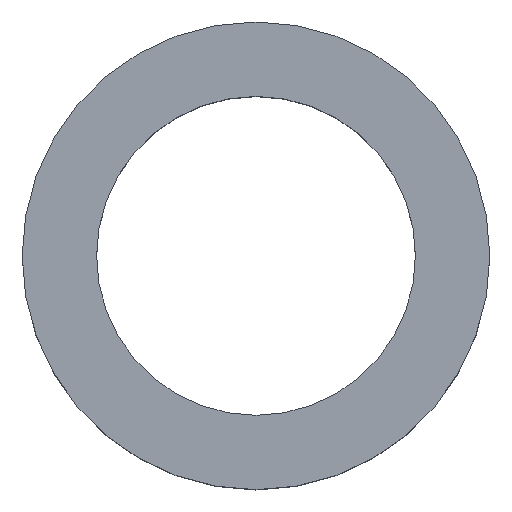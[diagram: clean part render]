
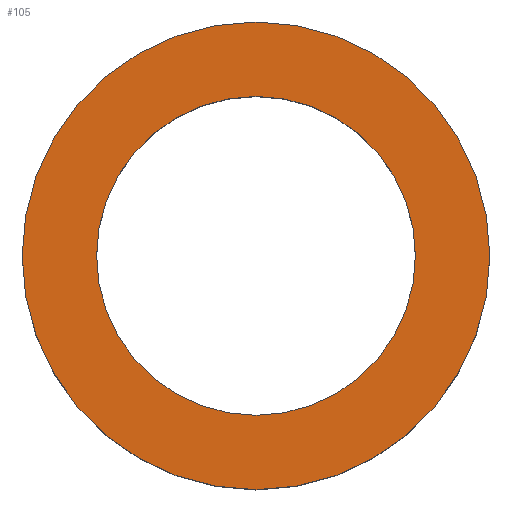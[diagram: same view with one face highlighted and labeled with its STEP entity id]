
A CAD part, top view. The second image highlights one B-rep face of the part: STEP entity #105.
In plain terms, the highlighted planar face has unit normal (0, 0, 1).
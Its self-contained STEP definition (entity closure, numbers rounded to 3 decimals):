
#21 = EDGE_CURVE('',#22,#22,#24,.T.);
#22 = VERTEX_POINT('',#23);
#23 = CARTESIAN_POINT('',(1.1,-14.,-2.251));
#24 = SURFACE_CURVE('',#25,(#30,#42),.PCURVE_S1.);
#25 = CIRCLE('',#26,1.1);
#26 = AXIS2_PLACEMENT_3D('',#27,#28,#29);
#27 = CARTESIAN_POINT('',(0.,-14.,-2.251));
#28 = DIRECTION('',(0.,0.,1.));
#29 = DIRECTION('',(1.,0.,-0.));
#30 = PCURVE('',#31,#36);
#31 = CYLINDRICAL_SURFACE('',#32,1.1);
#32 = AXIS2_PLACEMENT_3D('',#33,#34,#35);
#33 = CARTESIAN_POINT('',(0.,-14.,-3.07));
#34 = DIRECTION('',(0.,0.,1.));
#35 = DIRECTION('',(1.,0.,-0.));
#36 = DEFINITIONAL_REPRESENTATION('',(#37),#41);
#37 = LINE('',#38,#39);
#38 = CARTESIAN_POINT('',(0.,0.819));
#39 = VECTOR('',#40,1.);
#40 = DIRECTION('',(1.,0.));
#41 = ( GEOMETRIC_REPRESENTATION_CONTEXT(2) 
PARAMETRIC_REPRESENTATION_CONTEXT() REPRESENTATION_CONTEXT('2D SPACE',''
  ) );
#42 = PCURVE('',#43,#48);
#43 = PLANE('',#44);
#44 = AXIS2_PLACEMENT_3D('',#45,#46,#47);
#45 = CARTESIAN_POINT('',(0.,-14.,-2.251));
#46 = DIRECTION('',(0.,0.,1.));
#47 = DIRECTION('',(1.,0.,-0.));
#48 = DEFINITIONAL_REPRESENTATION('',(#49),#53);
#49 = CIRCLE('',#50,1.1);
#50 = AXIS2_PLACEMENT_2D('',#51,#52);
#51 = CARTESIAN_POINT('',(0.,0.));
#52 = DIRECTION('',(1.,0.));
#53 = ( GEOMETRIC_REPRESENTATION_CONTEXT(2) 
PARAMETRIC_REPRESENTATION_CONTEXT() REPRESENTATION_CONTEXT('2D SPACE',''
  ) );
#105 = ADVANCED_FACE('',(#106,#109),#43,.T.);
#106 = FACE_BOUND('',#107,.T.);
#107 = EDGE_LOOP('',(#108));
#108 = ORIENTED_EDGE('',*,*,#21,.T.);
#109 = FACE_BOUND('',#110,.T.);
#110 = EDGE_LOOP('',(#111));
#111 = ORIENTED_EDGE('',*,*,#112,.F.);
#112 = EDGE_CURVE('',#113,#113,#115,.T.);
#113 = VERTEX_POINT('',#114);
#114 = CARTESIAN_POINT('',(0.75,-14.,-2.251));
#115 = SURFACE_CURVE('',#116,(#121,#128),.PCURVE_S1.);
#116 = CIRCLE('',#117,0.75);
#117 = AXIS2_PLACEMENT_3D('',#118,#119,#120);
#118 = CARTESIAN_POINT('',(0.,-14.,-2.251));
#119 = DIRECTION('',(0.,0.,1.));
#120 = DIRECTION('',(1.,0.,-0.));
#121 = PCURVE('',#43,#122);
#122 = DEFINITIONAL_REPRESENTATION('',(#123),#127);
#123 = CIRCLE('',#124,0.75);
#124 = AXIS2_PLACEMENT_2D('',#125,#126);
#125 = CARTESIAN_POINT('',(0.,0.));
#126 = DIRECTION('',(1.,0.));
#127 = ( GEOMETRIC_REPRESENTATION_CONTEXT(2) 
PARAMETRIC_REPRESENTATION_CONTEXT() REPRESENTATION_CONTEXT('2D SPACE',''
  ) );
#128 = PCURVE('',#129,#134);
#129 = CYLINDRICAL_SURFACE('',#130,0.75);
#130 = AXIS2_PLACEMENT_3D('',#131,#132,#133);
#131 = CARTESIAN_POINT('',(0.,-14.,-3.17));
#132 = DIRECTION('',(0.,0.,1.));
#133 = DIRECTION('',(1.,0.,-0.));
#134 = DEFINITIONAL_REPRESENTATION('',(#135),#139);
#135 = LINE('',#136,#137);
#136 = CARTESIAN_POINT('',(0.,0.919));
#137 = VECTOR('',#138,1.);
#138 = DIRECTION('',(1.,0.));
#139 = ( GEOMETRIC_REPRESENTATION_CONTEXT(2) 
PARAMETRIC_REPRESENTATION_CONTEXT() REPRESENTATION_CONTEXT('2D SPACE',''
  ) );
